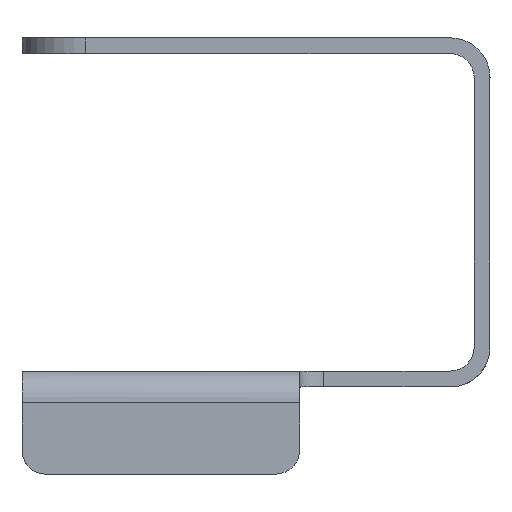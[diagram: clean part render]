
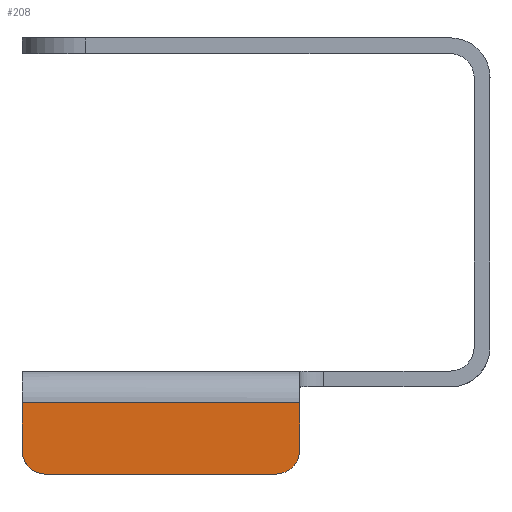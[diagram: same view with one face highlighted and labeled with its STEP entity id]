
A CAD part, left-side view. The second image highlights one B-rep face of the part: STEP entity #208.
In plain terms, the highlighted planar face has unit normal (-1, 0, 0).
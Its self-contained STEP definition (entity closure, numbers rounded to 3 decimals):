
#93=AXIS2_PLACEMENT_3D('Circle Axis2P3D',#91,#92,$) ;
#159=AXIS2_PLACEMENT_3D('Circle Axis2P3D',#157,#158,$) ;
#179=AXIS2_PLACEMENT_3D('Plane Axis2P3D',#176,#177,#178) ;
#37=CARTESIAN_POINT('Line Origine',(1034.999,-703.473,29.)) ;
#41=CARTESIAN_POINT('Vertex',(1034.999,-688.973,29.)) ;
#43=CARTESIAN_POINT('Vertex',(1034.999,-717.973,29.)) ;
#88=CARTESIAN_POINT('Vertex',(1034.999,-720.973,32.)) ;
#91=CARTESIAN_POINT('Axis2P3D Location',(1034.999,-717.973,32.)) ;
#157=CARTESIAN_POINT('Axis2P3D Location',(1034.999,-688.973,32.)) ;
#161=CARTESIAN_POINT('Vertex',(1034.999,-685.973,32.)) ;
#176=CARTESIAN_POINT('Axis2P3D Location',(1034.999,-735.973,40.)) ;
#181=CARTESIAN_POINT('Line Origine',(1034.999,-720.973,35.)) ;
#185=CARTESIAN_POINT('Vertex',(1034.999,-720.973,38.)) ;
#188=CARTESIAN_POINT('Line Origine',(1034.999,-703.473,38.)) ;
#192=CARTESIAN_POINT('Vertex',(1034.999,-685.973,38.)) ;
#195=CARTESIAN_POINT('Line Origine',(1034.999,-685.973,35.)) ;
#38=DIRECTION('Vector Direction',(0.,-1.,0.)) ;
#92=DIRECTION('Axis2P3D Direction',(-1.,0.,0.)) ;
#158=DIRECTION('Axis2P3D Direction',(1.,0.,0.)) ;
#177=DIRECTION('Axis2P3D Direction',(-1.,0.,0.)) ;
#178=DIRECTION('Axis2P3D XDirection',(0.,1.,0.)) ;
#182=DIRECTION('Vector Direction',(0.,0.,1.)) ;
#189=DIRECTION('Vector Direction',(0.,1.,0.)) ;
#196=DIRECTION('Vector Direction',(0.,0.,-1.)) ;
#39=VECTOR('Line Direction',#38,1.) ;
#183=VECTOR('Line Direction',#182,1.) ;
#190=VECTOR('Line Direction',#189,1.) ;
#197=VECTOR('Line Direction',#196,1.) ;
#201=ORIENTED_EDGE('',*,*,#187,.T.) ;
#202=ORIENTED_EDGE('',*,*,#194,.F.) ;
#203=ORIENTED_EDGE('',*,*,#199,.T.) ;
#204=ORIENTED_EDGE('',*,*,#163,.F.) ;
#205=ORIENTED_EDGE('',*,*,#45,.T.) ;
#206=ORIENTED_EDGE('',*,*,#95,.T.) ;
#208=ADVANCED_FACE('680.2\\interface-2.2.1\\\X2\51E04F554F53\X0\.40',(#207),#180,.T.) ;
#94=CIRCLE('generated circle',#93,3.) ;
#160=CIRCLE('generated circle',#159,3.) ;
#45=EDGE_CURVE('',#42,#44,#40,.T.) ;
#95=EDGE_CURVE('',#44,#89,#94,.T.) ;
#163=EDGE_CURVE('',#42,#162,#160,.T.) ;
#187=EDGE_CURVE('',#89,#186,#184,.T.) ;
#194=EDGE_CURVE('',#193,#186,#191,.F.) ;
#199=EDGE_CURVE('',#193,#162,#198,.T.) ;
#200=EDGE_LOOP('',(#201,#202,#203,#204,#205,#206)) ;
#207=FACE_OUTER_BOUND('',#200,.T.) ;
#40=LINE('Line',#37,#39) ;
#184=LINE('Line',#181,#183) ;
#191=LINE('Line',#188,#190) ;
#198=LINE('Line',#195,#197) ;
#180=PLANE('Plane',#179) ;
#42=VERTEX_POINT('',#41) ;
#44=VERTEX_POINT('',#43) ;
#89=VERTEX_POINT('',#88) ;
#162=VERTEX_POINT('',#161) ;
#186=VERTEX_POINT('',#185) ;
#193=VERTEX_POINT('',#192) ;
